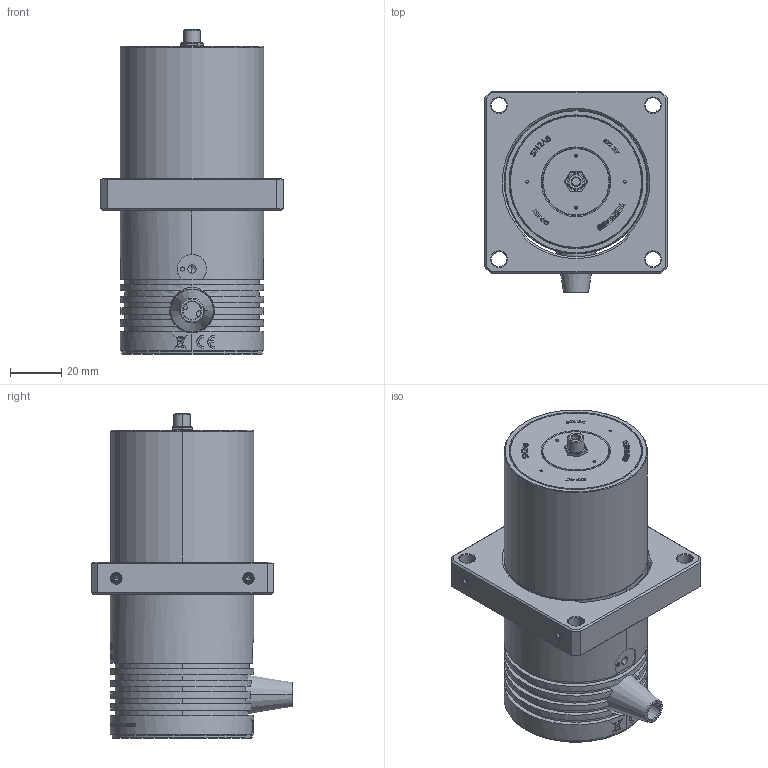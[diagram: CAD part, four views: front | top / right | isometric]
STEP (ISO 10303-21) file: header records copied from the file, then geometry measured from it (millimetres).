
FILE_DESCRIPTION (( 'STEP AP214' ), '1' );
FILE_NAME ('2023-19 - QTH10 ASSY.STEP', '2024-04-05T08:03:09', ( '' ), ( '' ), 'SwSTEP 2.0', 'SolidWorks 2024', '' );
FILE_SCHEMA (( 'AUTOMOTIVE_DESIGN' ));
Length unit declared in the file: millimetre
Products named in the file (9): SM2A6; SM2RR; SM1RR; SM2L20; ACL5040U-A; QTH10_M_Web Assembly; 2023-19 - QTH10 ASSY; SM1SMA; LCP36
Assembly tree (10 placements, depth 2):
  2023-19 - QTH10 ASSY
    QTH10_M_Web Assembly
    SM1SMA
    ACL5040U-A
    SM2A6
    SM1RR
    SM2RR  x3
    SM2L20
    LCP36
Bounding box: 71.12 x 78.65 x 126.46 mm (x, y, z)
Volume: 160988 mm3; surface area: 90920.3 mm2
Topology: 26 solids, 26 shells, 2663 faces, 6983 edges, 4541 vertices
Faces by surface type: plane 1140, bspline 800, cylinder 451, cone 248, torus 20, sphere 4
Entity records: 128941 total; most frequent: CARTESIAN_POINT 70734, ORIENTED_EDGE 13646, DIRECTION 9137, EDGE_CURVE 6823, VERTEX_POINT 4465, LINE 3109, VECTOR 3109, AXIS2_PLACEMENT_3D 3014
